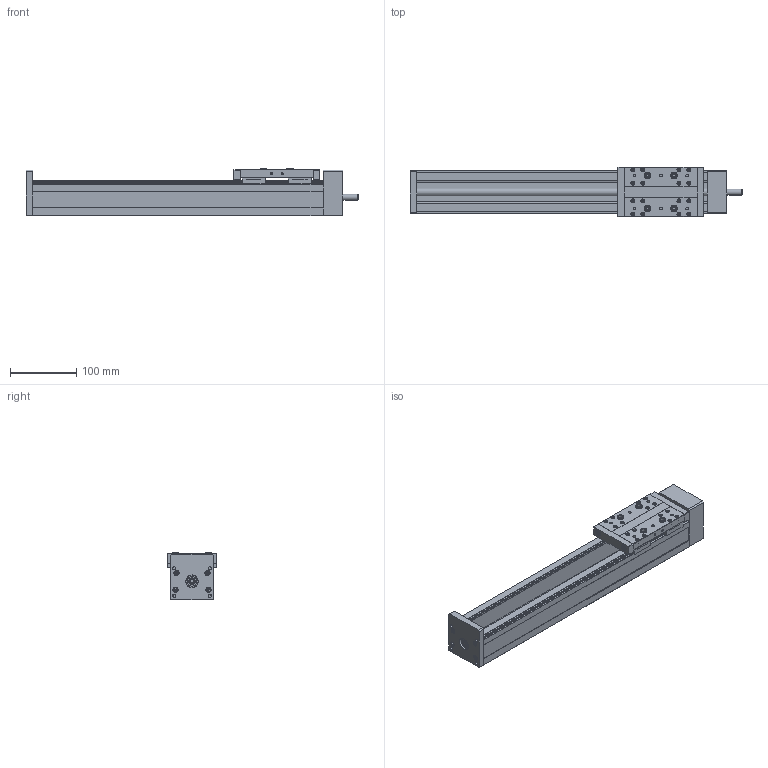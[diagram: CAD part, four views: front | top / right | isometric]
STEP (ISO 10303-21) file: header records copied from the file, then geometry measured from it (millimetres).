
FILE_DESCRIPTION(/* description */ (''),/* implementation_level */ '2;1');
FILE_NAME(/* name */ 'MSL65-S12-S-0300.step',/* time_stamp */ '2023-02-01T14:51:59+01:00',/* author */ ('lutz'),/* organization */ (''),/* preprocessor_version */ 'ST-DEVELOPER v19.2',/* originating_system */ 'Autodesk Inventor 2023',/* authorisation */ '');
FILE_SCHEMA (('AUTOMOTIVE_DESIGN { 1 0 10303 214 3 1 1 }'));
Length unit declared in the file: millimetre
Products named in the file (4): MSL65-S12-S-0300; MSL65-S12-S-0300-010; MSL65-S12-S-0300-020; MSL65-S12-S-0300-030
Assembly tree (3 placements, depth 2):
  MSL65-S12-S-0300
    MSL65-S12-S-0300-010
    MSL65-S12-S-0300-020
    MSL65-S12-S-0300-030
Bounding box: 503 x 75 x 71.9 mm (x, y, z)
Volume: 1098599.7 mm3; surface area: 262481.6 mm2
Topology: 3 solids, 7 shells, 1742 faces, 4712 edges, 3125 vertices
Faces by surface type: plane 1474, cylinder 182, cone 54, torus 31, sphere 1
Full cylindrical faces by diameter (mm): 3.2 x2, 3.242 x8, 4 x1, 4.134 x10, 4.917 x4, 5.5 x16, 5.7 x1, 6 x17, 6.647 x4, 7 x8, 8 x9, 8.2 x1, 8.5 x4, 9 x1, 10 x12, 10.238 x2, 12 x2, 14.762 x2, 19 x3, 30.38 x1, 36 x1
Entity records: 54305 total; most frequent: CARTESIAN_POINT 9968, ORIENTED_EDGE 9352, DIRECTION 8470, EDGE_CURVE 4676, LINE 3972, VECTOR 3972, VERTEX_POINT 3125, AXIS2_PLACEMENT_3D 2249
